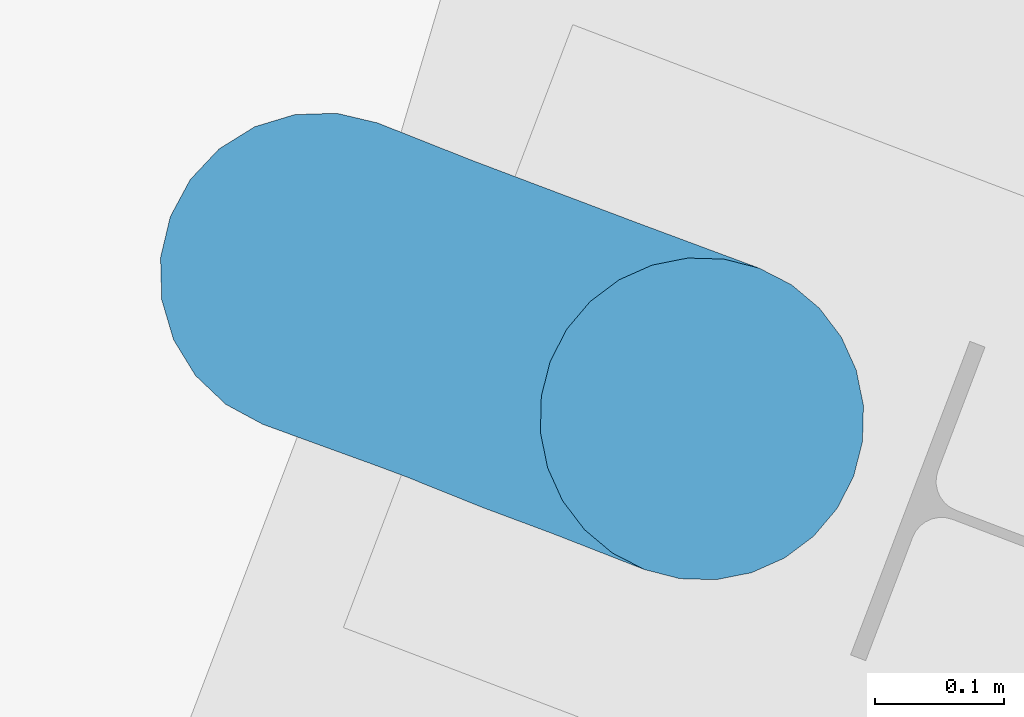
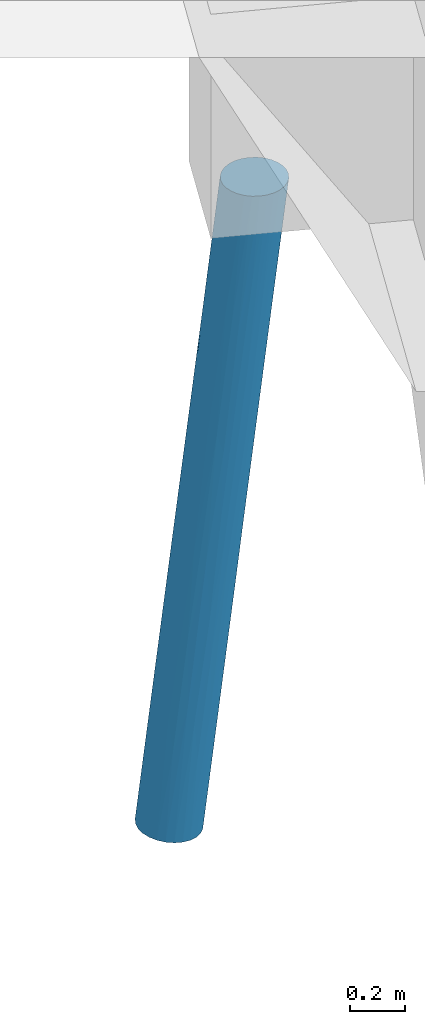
# One storey, part 27 of 46: 1 pile.
"""IFC2X3 building model written with IfcOpenShell, lengths in millimetres."""

from ifc_helpers import new_model, entity, si_unit, converted_unit, derived_unit, direction, frame, origin, place, context, subcontext, project, spatial, faceted_brep, source, transform, mapped, material, type_object, type_shapes, element, save


model = new_model("IFC2X3")

# Units and contexts
model_context = context("Model", 3, precision=0.01, world=origin(), true_north=direction((6.123233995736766e-17, 1.0)))
body_context = subcontext(model_context, "Body", "Model", "MODEL_VIEW")
ifc_project = project(units=[si_unit("LENGTHUNIT", "METRE", prefix="MILLI"), converted_unit("PLANEANGLEUNIT", "DEGREE", entity("IfcPlaneAngleMeasure", 0.017453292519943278), si_unit("PLANEANGLEUNIT", "RADIAN"), dimensions=[0, 0, 0, 0, 0, 0, 0]), si_unit("AREAUNIT", "SQUARE_METRE"), derived_unit("THERMALTRANSMITTANCEUNIT", [(si_unit("MASSUNIT", "GRAM", prefix="KILO"), 1), (si_unit("THERMODYNAMICTEMPERATUREUNIT", "KELVIN"), -1), (si_unit("TIMEUNIT", "SECOND"), -3)])], contexts=[model_context])

# Site, building, storey
site_placement = place(None, frame((-72937.88054949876, 11621.45624098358, 0.0), z_axis=(0.0, 0.0, 1.0), x_axis=(0.9346418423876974, -0.35559053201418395, 0.0)))
site = spatial("IfcSite", under=ifc_project, at=site_placement, Name="Default", CompositionType="ELEMENT")
building_placement = place(site_placement, origin())
building = spatial("IfcBuilding", under=site, at=building_placement, CompositionType="ELEMENT")
storey_placement = place(building_placement, origin())
storey = spatial("IfcBuildingStorey", under=building, at=storey_placement, Name="00 begane grond", CompositionType="ELEMENT", Elevation=0.0)

# Pile
ifc_material = material(Name="beton_gewapend_prefab-element_c45/55")
type_product = type_object("IfcTypeProduct", Name="Type 01", material=ifc_material)
shared_shape = source(origin(), body_context, "Body", "Brep", [
    faceted_brep([(124.838162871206, -27.815116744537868, -1150.0), (115.53639022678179, -54.2354673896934, -1150.0), (72.36643070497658, -41.239861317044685, -1587.2480771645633), (-111.09194578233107, -54.23546738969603, -1150.0), (-165.1894529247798, -41.33003827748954, -1588.444859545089), (-182.07875772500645, -65.1457063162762, -1842.6627389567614), (-30.14575159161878, -64.60051474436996, -2410.3553271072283), (32.98344934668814, -64.94314047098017, -1840.3127773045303), (15.031797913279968, -88.27496307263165, -1836.1297740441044), (41.77006032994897, 0.0, -1925.9925992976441), (100.55257203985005, -77.9362252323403, -1150.0), (80.6380595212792, -97.7289353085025, -1150.0), (-180.54618184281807, -99.16916754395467, -3483.986786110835), (-108.1734310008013, -106.74566752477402, -2732.5343267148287), (-175.6519081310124, -115.48494156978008, -3184.0354063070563), (-42.91884640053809, -117.90464735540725, -1932.203812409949), (56.79144948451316, -112.62110848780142, -1150.0), (30.20851053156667, -121.8659890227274, -1150.0), (-120.39371842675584, -27.81511674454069, -1150.0), (-242.98263969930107, -88.62069146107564, -2558.5627355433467), (-162.25875578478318, -88.50075404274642, -1830.9574517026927), (-245.70385641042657, -64.88368548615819, -2413.843724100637), (-194.4421984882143, -32.35238063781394, -4013.333582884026), (-133.56769714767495, -28.49629953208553, -3474.2266886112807), (-151.93048965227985, -53.33845094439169, -3561.073967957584), (12.222467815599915, -106.275938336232, -1655.8961403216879), (-23.42762089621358, -124.20079095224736, -1508.642990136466), (-80.64748703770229, -124.2366812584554, -1770.9263967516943), (-73.06982999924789, -124.27812918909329, -1949.101189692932), (-265.024992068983, -123.93060767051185, -3407.479310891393), (-314.4444444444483, -125.0, -4000.0), (-240.21076201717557, -123.93060767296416, -3479.642475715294), (-190.20897761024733, 0.0, -4013.803940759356), (-117.33081280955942, 0.0, -3357.900457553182), (-25.764066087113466, -121.86598902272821, -1150.0), (2.2222222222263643, -125.0, -1150.0), (-317.9689709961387, -23.60182842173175, -2920.157783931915), (-375.26894382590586, -28.366113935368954, -3445.0277270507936), (-326.96702366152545, -47.83542903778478, -3066.9425894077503), (-73.70805836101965, -23.187811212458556, -2945.6497765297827), (16.085837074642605, -41.18767244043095, -2093.938466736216), (-39.92708990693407, -41.47720200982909, -2597.136214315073), (-183.66520352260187, -123.01104339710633, -3024.1067526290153), (-196.28435151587, -123.47165352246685, -2760.09510592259), (-252.3267110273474, -108.25317547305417, -4006.901970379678), (-226.59670338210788, -88.38834764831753, -4009.7608601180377), (-206.8533741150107, -62.49999999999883, -4011.9545633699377), (-148.27550792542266, -76.09517863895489, -3402.494577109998), (-119.74622127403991, -106.37235269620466, -1653.229951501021), (-99.40312932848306, -118.21391771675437, -1696.7443345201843), (-52.347005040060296, -112.62110848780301, -1150.0), (-238.2779479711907, -106.2597512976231, -2718.3665211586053), (-185.92128902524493, -102.46025049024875, -2194.904710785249), (-42.820885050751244, -102.58547775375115, -2202.1491422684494), (-156.2252162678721, -118.09364807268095, -2204.9892079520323), (-264.72929865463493, -115.48494155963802, -3119.3954545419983), (-319.0271104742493, -115.48494156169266, -3608.075760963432), (-76.19361507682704, -97.72893530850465, -1150.0), (-96.10812759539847, -77.93622523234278, -1150.0), (-44.45199380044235, 0.0, -2701.9910864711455), (-1.3402226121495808, 0.0, -2313.985145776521), (-292.9202820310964, -72.79893776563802, -2886.1326580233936), (-292.6922084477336, -91.63383624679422, -3034.349570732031), (-282.2899395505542, -120.74072828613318, -4003.5727227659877), (-227.3188222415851, -115.48494156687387, -3649.037633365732), (-209.76851175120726, 0.0, -1925.9934634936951), (-221.60043037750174, -41.38232604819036, -2096.3096577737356), (-376.56217786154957, -108.25317547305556, -3993.0980296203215), (-346.59894933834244, -120.74072828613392, -3996.4272772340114), (-66.21715172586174, -88.15377228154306, -2568.4634430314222), (-129.97696806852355, -118.32629651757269, -2704.7019880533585), (-123.5470158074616, 0.0, -1150.0), (-377.52744650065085, -52.97984274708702, -3542.5215927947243), (-345.70385271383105, -76.09517862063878, -3383.3196685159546), (-275.8885685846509, -42.22399193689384, -2587.6075033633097), (-422.0355147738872, -62.50000000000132, -3988.0454366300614), (-402.29218550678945, -88.38834764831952, -3990.239139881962), (-331.8470727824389, -99.16916753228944, -3467.5525053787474), (-132.4434459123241, -124.68323586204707, -2281.458802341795), (-96.52658231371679, -47.8354290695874, -3084.4998642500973), (-89.11715414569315, -71.65077909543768, -2899.5648185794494), (127.99146025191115, 0.0, -1150.0), (-252.87925972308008, 0.0, -2313.9901952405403), (-122.93481462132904, -90.89446365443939, -3053.447507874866), (-434.4466904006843, -32.352380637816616, -3986.6664171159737), (-438.679911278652, 0.0, -3986.1960592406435), (-141.73877836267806, -124.16072599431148, -2576.5969257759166), (-210.06991733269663, -117.23436667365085, -2667.8819222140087), (-295.9900076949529, 0.0, -2701.9869269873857), (-367.3349594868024, 0.0, -3344.0914931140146), (124.83816287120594, 27.815116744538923, -1150.0), (115.53639022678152, 54.23546738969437, -1150.0), (100.55257203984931, 77.93622523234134, -1150.0), (80.63805952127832, 97.7289353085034, -1150.0), (56.79144948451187, 112.62110848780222, -1150.0), (30.20851053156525, 121.86598902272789, -1150.0), (2.22222222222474, 125.0, -1150.0), (-25.76406608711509, 121.86598902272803, -1150.0), (-52.34700504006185, 112.62110848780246, -1150.0), (-76.1936150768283, 97.72893530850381, -1150.0), (-96.10812759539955, 77.93622523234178, -1150.0), (-111.09194578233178, 54.23546738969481, -1150.0), (-120.39371842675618, 27.815116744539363, -1150.0), (-96.52658225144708, 47.83542901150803, -3084.4998639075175), (-133.5676976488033, 28.496299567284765, -3474.2266930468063), (-151.9304895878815, 53.338451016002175, -3561.073967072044), (-176.7825211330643, 87.58614607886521, -1953.453255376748), (-126.78568187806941, 88.44799753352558, -1511.2211246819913), (-140.32328536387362, 105.94191584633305, -1832.1538289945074), (-185.53475823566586, 41.3488976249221, -1771.6124540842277), (-98.5233768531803, 124.24251446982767, -1932.2861052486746), (-159.3540506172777, 67.83984168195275, -1653.46778938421), (-221.49211536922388, 66.66107193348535, -2205.8974607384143), (-402.2921855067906, 88.38834764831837, -3990.239139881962), (-352.8086337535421, 76.09517892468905, -3447.262699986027), (-312.10423006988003, 99.16916769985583, -3289.866922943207), (-282.2899395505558, 120.74072828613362, -4003.5727227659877), (-314.44444444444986, 125.0, -4000.0), (-235.4135805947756, 123.93060766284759, -3436.467843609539), (-362.94366171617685, 26.27355326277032, -3329.855963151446), (-328.2998352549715, 47.83542988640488, -3078.9378969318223), (-384.2243809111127, 47.83542945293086, -3582.258806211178), (-376.562177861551, 108.25317547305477, -3993.0980296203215), (-180.54618171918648, 99.16916751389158, -3483.9867853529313), (-148.27550783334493, 76.0951785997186, -3402.49457655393), (-226.59670338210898, 88.38834764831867, -4009.7608601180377), (-163.5203657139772, 118.46525212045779, -2280.489865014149), (-104.92272192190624, 118.27912572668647, -1748.143371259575), (-89.11715398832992, 71.6507788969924, -2899.5648184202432), (-39.927089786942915, 41.4772017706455, -2597.1362139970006), (-274.28881423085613, 82.15433137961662, -2785.484682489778), (-221.11735801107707, 106.04994682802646, -2560.8655013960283), (-422.03551477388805, 62.49999999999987, -3988.0454366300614), (-434.4466904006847, 32.35238063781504, -3986.6664171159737), (-180.90977316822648, 122.95522291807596, -3002.0876370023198), (-141.73877802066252, 124.16072595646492, -2576.596925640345), (-129.97696798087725, 118.32629644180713, -2704.701989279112), (-180.2811496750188, 124.04234815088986, -2652.685215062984), (-242.59310629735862, 123.930607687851, -3205.592340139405), (-232.5682987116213, 117.68101498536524, -2881.4778788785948), (-301.7888662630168, 115.48494161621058, -3452.931564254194), (-346.598949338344, 120.7407282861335, -3996.4272772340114), (-206.85337411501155, 62.50000000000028, -4011.9545633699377), (-42.918846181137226, 117.90464729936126, -1932.2038118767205), (-83.49872980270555, 124.18127902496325, -2050.8284888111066), (-29.55955353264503, 124.19873841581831, -1563.9938530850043), (15.03179802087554, 88.27496298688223, -1836.1297738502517), (32.983449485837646, 64.94314037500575, -1840.3127765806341), (-30.14575143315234, 64.60051457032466, -2410.3553266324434), (-42.820884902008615, 102.58547764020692, -2202.149142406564), (12.222467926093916, 106.27593827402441, -1655.89614023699), (-73.70805863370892, 23.18781108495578, -2945.6497792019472), (16.08583725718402, 41.18767230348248, -2093.9384655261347), (72.36643080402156, 41.2398612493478, -1587.2480764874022), (-221.94118502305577, 91.78881553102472, -2399.105716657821), (-108.17343087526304, 106.7456674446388, -2732.5343267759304), (-66.2171515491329, 88.15377212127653, -2568.463442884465), (-122.93481449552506, 90.89446347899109, -3053.447508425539), (-262.27997921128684, 34.77836369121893, -2443.29023072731), (-227.3188223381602, 115.48494155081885, -3649.037634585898), (-252.32671102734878, 108.25317547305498, -4006.901970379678), (-277.036285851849, 61.03344887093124, -2675.5040755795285), (-194.44219848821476, 32.35238063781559, -4013.333582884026), (-312.1095376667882, 26.52940126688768, -2872.8494770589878), (-175.65190824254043, 115.48494153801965, -3184.035408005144)], [[[0, 1, 2]], [[3, 4, 5]], [[6, 7, 8]], [[9, 0, 2]], [[8, 10, 11]], [[12, 13, 14]], [[15, 16, 17]], [[4, 3, 18]], [[19, 20, 21]], [[22, 23, 24]], [[11, 16, 25]], [[26, 27, 28]], [[29, 30, 31]], [[32, 33, 23]], [[10, 8, 7]], [[34, 27, 35]], [[36, 37, 38]], [[33, 39, 23]], [[40, 6, 41]], [[42, 43, 29]], [[44, 45, 12]], [[20, 5, 21]], [[26, 17, 35]], [[45, 46, 47]], [[48, 49, 50]], [[19, 51, 52]], [[53, 25, 15]], [[46, 24, 47]], [[48, 54, 49]], [[55, 56, 29]], [[57, 58, 20]], [[40, 59, 60, 9]], [[61, 62, 19]], [[2, 7, 40]], [[63, 44, 64]], [[65, 66, 4]], [[3, 5, 58]], [[20, 52, 48]], [[67, 68, 56]], [[29, 43, 55]], [[69, 53, 13]], [[13, 70, 14]], [[18, 71, 65]], [[72, 73, 38]], [[68, 30, 29]], [[74, 36, 38]], [[62, 51, 19]], [[38, 61, 74]], [[37, 72, 38]], [[75, 76, 73]], [[76, 77, 73]], [[57, 20, 48]], [[12, 45, 47]], [[6, 40, 7]], [[78, 54, 43]], [[27, 78, 28]], [[79, 41, 80]], [[81, 0, 9]], [[66, 65, 82]], [[41, 39, 59]], [[13, 12, 83]], [[76, 67, 77]], [[84, 37, 85]], [[21, 61, 19]], [[30, 63, 31]], [[31, 42, 29]], [[47, 80, 83]], [[64, 12, 14]], [[56, 77, 67]], [[51, 62, 77]], [[64, 31, 63]], [[14, 70, 42]], [[1, 10, 7]], [[9, 2, 40]], [[7, 2, 1]], [[6, 8, 69]], [[80, 6, 69]], [[6, 80, 41]], [[65, 4, 18]], [[5, 4, 66]], [[5, 66, 21]], [[58, 5, 20]], [[74, 21, 66]], [[61, 38, 73]], [[78, 43, 86]], [[55, 87, 51]], [[83, 80, 69]], [[79, 80, 47]], [[83, 69, 13]], [[47, 83, 12]], [[53, 69, 8]], [[70, 15, 86]], [[25, 53, 8]], [[70, 53, 15]], [[11, 25, 8]], [[15, 25, 16]], [[39, 41, 79]], [[59, 40, 41]], [[23, 39, 79]], [[33, 59, 39]], [[24, 23, 79]], [[32, 23, 22]], [[47, 24, 79]], [[22, 24, 46]], [[61, 21, 74]], [[62, 73, 77]], [[73, 62, 61]], [[51, 77, 55]], [[87, 55, 43]], [[19, 52, 20]], [[51, 54, 52]], [[27, 49, 54]], [[54, 48, 52]], [[57, 48, 50]], [[70, 13, 53]], [[42, 70, 86]], [[43, 42, 86]], [[14, 42, 31]], [[29, 56, 68]], [[74, 66, 82]], [[88, 89, 36, 82]], [[37, 36, 89]], [[85, 37, 89]], [[72, 84, 75]], [[84, 72, 37]], [[73, 72, 75]], [[43, 54, 87]], [[54, 51, 87]], [[36, 74, 82]], [[77, 56, 55]], [[28, 86, 15]], [[54, 78, 27]], [[86, 28, 78]], [[26, 15, 17]], [[27, 26, 35]], [[15, 26, 28]], [[12, 64, 44]], [[31, 64, 14]], [[27, 34, 49]], [[50, 49, 34]], [[34, 35, 17, 16, 11, 10, 1, 0, 81, 90, 91, 92, 93, 94, 95, 96, 97, 98, 99, 100, 101, 102, 71, 18, 3, 58, 57, 50]], [[103, 104, 105]], [[90, 81, 9]], [[106, 107, 108]], [[109, 102, 101]], [[110, 97, 96]], [[111, 112, 109]], [[113, 114, 115]], [[116, 117, 118]], [[98, 108, 99]], [[119, 120, 121]], [[113, 115, 122]], [[106, 112, 111]], [[123, 124, 125]], [[110, 126, 127]], [[119, 85, 89]], [[65, 71, 102]], [[103, 128, 129]], [[115, 130, 131]], [[108, 127, 126]], [[132, 133, 121]], [[134, 135, 136]], [[137, 138, 139]], [[140, 141, 122]], [[142, 125, 124]], [[143, 144, 145]], [[146, 147, 148]], [[146, 149, 150]], [[130, 115, 114]], [[151, 104, 103]], [[143, 136, 144]], [[9, 152, 153]], [[140, 122, 115]], [[143, 95, 94]], [[98, 97, 127]], [[92, 146, 93]], [[138, 140, 139]], [[131, 130, 154]], [[129, 151, 103]], [[117, 141, 138]], [[118, 117, 138]], [[155, 156, 157]], [[96, 95, 145]], [[109, 158, 65]], [[116, 159, 160]], [[143, 149, 136]], [[153, 91, 90]], [[105, 124, 103]], [[112, 158, 109]], [[146, 148, 156]], [[100, 111, 101]], [[128, 157, 156]], [[147, 92, 91]], [[91, 153, 147]], [[150, 93, 146]], [[156, 155, 149]], [[161, 158, 112]], [[65, 102, 109]], [[113, 132, 114]], [[139, 140, 115]], [[125, 160, 123]], [[152, 9, 60]], [[162, 104, 32]], [[148, 128, 156]], [[138, 137, 134]], [[163, 158, 120]], [[159, 118, 164]], [[121, 114, 132]], [[130, 161, 112]], [[161, 114, 120]], [[112, 106, 154]], [[139, 115, 131]], [[138, 141, 140]], [[163, 120, 119]], [[158, 88, 82, 65]], [[159, 123, 160]], [[155, 157, 123]], [[9, 153, 90]], [[147, 153, 152]], [[147, 152, 148]], [[92, 147, 146]], [[129, 148, 152]], [[128, 103, 124]], [[131, 126, 139]], [[135, 134, 137]], [[108, 126, 131]], [[110, 144, 137]], [[139, 126, 137]], [[110, 137, 126]], [[128, 148, 129]], [[157, 124, 123]], [[124, 157, 128]], [[155, 123, 164]], [[136, 155, 164]], [[156, 149, 146]], [[136, 149, 155]], [[150, 143, 94]], [[143, 150, 149]], [[93, 150, 94]], [[101, 111, 109]], [[129, 152, 60]], [[59, 33, 151]], [[104, 151, 33]], [[32, 104, 33]], [[105, 162, 142]], [[162, 105, 104]], [[124, 105, 142]], [[98, 127, 108]], [[97, 110, 127]], [[134, 164, 118]], [[136, 135, 144]], [[164, 134, 136]], [[138, 134, 118]], [[133, 85, 119]], [[114, 121, 120]], [[133, 119, 121]], [[163, 89, 88]], [[89, 163, 119]], [[88, 158, 163]], [[59, 151, 129]], [[60, 59, 129]], [[100, 99, 107]], [[111, 100, 107]], [[154, 108, 131]], [[108, 107, 99]], [[111, 107, 106]], [[137, 144, 135]], [[145, 110, 96]], [[143, 145, 95]], [[110, 145, 144]], [[118, 159, 116]], [[123, 159, 164]], [[114, 161, 130]], [[158, 161, 120]], [[112, 154, 130]], [[108, 154, 106]], [[141, 117, 116, 160, 125, 142, 162, 32, 22, 46, 45, 44, 63, 30, 68, 67, 76, 75, 84, 85, 133, 132, 113, 122]]]),
])
type_shapes(type_product, [shared_shape])
pile_placement = place(storey_placement, frame((66730.00015558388, 28760.0, 0.0)))
element("IfcPile", 1, at=pile_placement, inside=storey, type_object=type_product, material=ifc_material, Name="17.21_Prefab funderingspaal rond", ObjectType="prefab paal rond", PredefinedType="NOTDEFINED", context=body_context, shape_type="MappedRepresentation", body=[
    mapped(shared_shape, transform((0.0, 0.0, 0.0), scale=1.0)),
])

save(model, "model.ifc")
